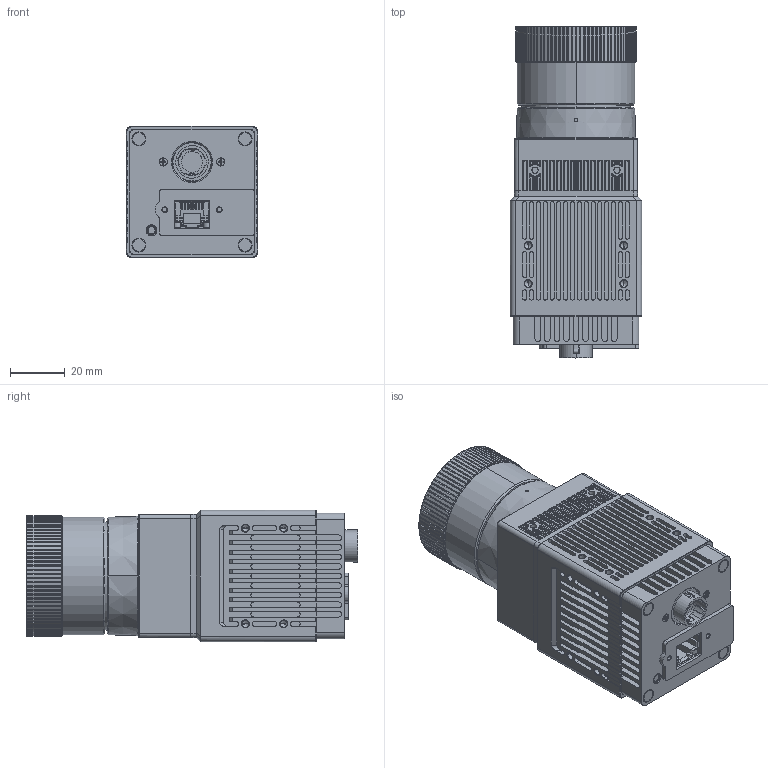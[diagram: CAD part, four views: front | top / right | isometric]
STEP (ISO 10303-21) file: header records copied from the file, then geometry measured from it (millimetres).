
FILE_DESCRIPTION((''),'2;1');
FILE_NAME('00-ALL-0001_ASM','2021-09-03T15:50:29',('gengdawei'),(''),'CREO PARAMETRIC BY PTC INC, 2017260','CREO PARAMETRIC BY PTC INC, 2017260','');
FILE_SCHEMA(('CONFIG_CONTROL_DESIGN'));
Products named in the file (1): 00-ALL-0001_ASM
Bounding box: 48 x 121.38 x 48 mm (x, y, z)
Volume: 211531.8 mm3; surface area: 43260.7 mm2
Topology: 1 solids, 20 shells, 3096 faces, 8268 edges, 5265 vertices
Faces by surface type: plane 1748, cylinder 985, cone 173, bspline 86, torus 52, sphere 52
Entity records: 100893 total; most frequent: CARTESIAN_POINT 23861, ORIENTED_EDGE 16344, DIRECTION 15788, EDGE_CURVE 8172, AXIS2_PLACEMENT_3D 5337, VERTEX_POINT 5265, VECTOR 5114, LINE 5114
